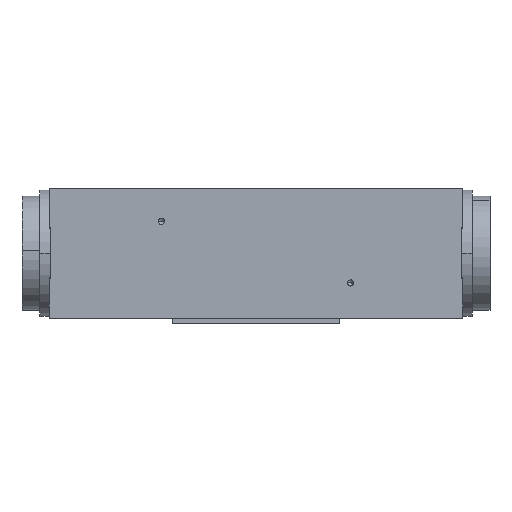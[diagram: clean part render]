
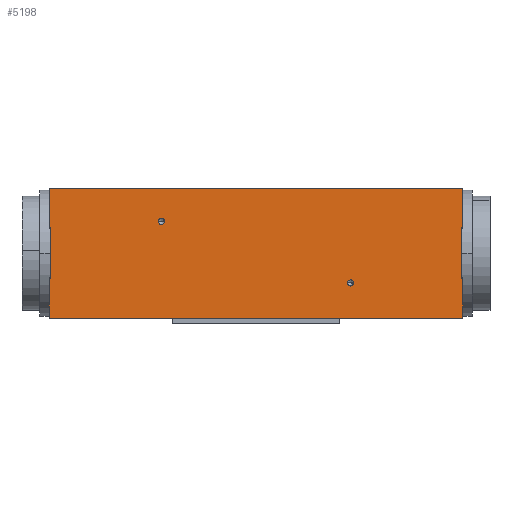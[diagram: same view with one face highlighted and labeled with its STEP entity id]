
A CAD part, top view. The second image highlights one B-rep face of the part: STEP entity #5198.
In plain terms, the highlighted planar face has unit normal (0, 0, 1).
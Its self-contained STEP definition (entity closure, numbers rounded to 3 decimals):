
#86 = DIRECTION ( 'NONE',  ( 0., 0., 1. ) ) ;
#144 = DIRECTION ( 'NONE',  ( 0., 1., 0. ) ) ;
#170 = LINE ( 'NONE', #7552, #1571 ) ;
#200 = EDGE_CURVE ( 'NONE', #666, #3056, #6881, .T. ) ;
#209 = LINE ( 'NONE', #3350, #1617 ) ;
#304 = LINE ( 'NONE', #4427, #4881 ) ;
#454 = ORIENTED_EDGE ( 'NONE', *, *, #6324, .F. ) ;
#499 = CARTESIAN_POINT ( 'NONE',  ( 94.707, -14.75, 15. ) ) ;
#565 = CARTESIAN_POINT ( 'NONE',  ( 0., -14.75, 15. ) ) ;
#570 = ORIENTED_EDGE ( 'NONE', *, *, #4294, .F. ) ;
#589 = EDGE_CURVE ( 'NONE', #5473, #2739, #209, .T. ) ;
#635 = LINE ( 'NONE', #5506, #2029 ) ;
#636 = ORIENTED_EDGE ( 'NONE', *, *, #5381, .T. ) ;
#666 = VERTEX_POINT ( 'NONE', #7518 ) ;
#708 = EDGE_CURVE ( 'NONE', #1433, #7443, #7599, .T. ) ;
#751 = CARTESIAN_POINT ( 'NONE',  ( 68.5, -6.75, 15. ) ) ;
#756 = CARTESIAN_POINT ( 'NONE',  ( 0., -15.457, 15. ) ) ;
#776 = LINE ( 'NONE', #5295, #2603 ) ;
#795 = AXIS2_PLACEMENT_3D ( 'NONE', #2379, #3472, #6581 ) ;
#988 = EDGE_CURVE ( 'NONE', #1433, #5280, #1602, .T. ) ;
#1004 = ORIENTED_EDGE ( 'NONE', *, *, #5278, .F. ) ;
#1057 = CARTESIAN_POINT ( 'NONE',  ( 93.7, 5.568, 15. ) ) ;
#1063 = AXIS2_PLACEMENT_3D ( 'NONE', #2384, #1635, #6685 ) ;
#1086 = VERTEX_POINT ( 'NONE', #1057 ) ;
#1102 = DIRECTION ( 'NONE',  ( -1., 0., 0. ) ) ;
#1274 = FACE_BOUND ( 'NONE', #3613, .T. ) ;
#1293 = CARTESIAN_POINT ( 'NONE',  ( 48.445, 5.568, 15. ) ) ;
#1336 = ORIENTED_EDGE ( 'NONE', *, *, #200, .F. ) ;
#1344 = DIRECTION ( 'NONE',  ( 1., 0., 0. ) ) ;
#1396 = DIRECTION ( 'NONE',  ( 0., 1., 0. ) ) ;
#1433 = VERTEX_POINT ( 'NONE', #5804 ) ;
#1463 = VERTEX_POINT ( 'NONE', #1792 ) ;
#1515 = ORIENTED_EDGE ( 'NONE', *, *, #7403, .T. ) ;
#1519 = PLANE ( 'NONE',  #1063 ) ;
#1571 = VECTOR ( 'NONE', #4369, 1000. ) ;
#1602 = LINE ( 'NONE', #3263, #4791 ) ;
#1617 = VECTOR ( 'NONE', #2792, 1000. ) ;
#1635 = DIRECTION ( 'NONE',  ( 0., 0., -1. ) ) ;
#1650 = VERTEX_POINT ( 'NONE', #3489 ) ;
#1663 = EDGE_CURVE ( 'NONE', #3936, #1650, #7580, .T. ) ;
#1734 = CIRCLE ( 'NONE', #2997, 0.7 ) ;
#1784 = ORIENTED_EDGE ( 'NONE', *, *, #4217, .F. ) ;
#1792 = CARTESIAN_POINT ( 'NONE',  ( 94., 14.75, 15. ) ) ;
#1797 = LINE ( 'NONE', #499, #3735 ) ;
#1801 = DIRECTION ( 'NONE',  ( 1., 0., 0. ) ) ;
#1809 = DIRECTION ( 'NONE',  ( 0., 1., 0. ) ) ;
#1964 = DIRECTION ( 'NONE',  ( -1., 0., 0. ) ) ;
#1973 = VECTOR ( 'NONE', #7103, 1000. ) ;
#2015 = VERTEX_POINT ( 'NONE', #3924 ) ;
#2029 = VECTOR ( 'NONE', #1964, 1000. ) ;
#2100 = CARTESIAN_POINT ( 'NONE',  ( 0.3, 5.568, 15. ) ) ;
#2198 = ORIENTED_EDGE ( 'NONE', *, *, #4834, .F. ) ;
#2269 = DIRECTION ( 'NONE',  ( 0., 1., 0. ) ) ;
#2278 = CIRCLE ( 'NONE', #5758, 0.7 ) ;
#2379 = CARTESIAN_POINT ( 'NONE',  ( 68.5, -6.75, 15. ) ) ;
#2384 = CARTESIAN_POINT ( 'NONE',  ( 94., -14.75, 15. ) ) ;
#2398 = LINE ( 'NONE', #7189, #3793 ) ;
#2603 = VECTOR ( 'NONE', #2269, 1000. ) ;
#2701 = CARTESIAN_POINT ( 'NONE',  ( 0., 14.75, 15. ) ) ;
#2739 = VERTEX_POINT ( 'NONE', #7589 ) ;
#2769 = DIRECTION ( 'NONE',  ( 1., 0., 0. ) ) ;
#2792 = DIRECTION ( 'NONE',  ( -1., 0., 0. ) ) ;
#2845 = FACE_BOUND ( 'NONE', #6631, .T. ) ;
#2931 = ORIENTED_EDGE ( 'NONE', *, *, #6599, .T. ) ;
#2957 = CARTESIAN_POINT ( 'NONE',  ( 26.2, 7.25, 15. ) ) ;
#2997 = AXIS2_PLACEMENT_3D ( 'NONE', #751, #4912, #1344 ) ;
#3056 = VERTEX_POINT ( 'NONE', #6871 ) ;
#3080 = CARTESIAN_POINT ( 'NONE',  ( 25.5, 7.25, 15. ) ) ;
#3177 = DIRECTION ( 'NONE',  ( -1., 0., 0. ) ) ;
#3263 = CARTESIAN_POINT ( 'NONE',  ( 0., -15.457, 15. ) ) ;
#3350 = CARTESIAN_POINT ( 'NONE',  ( 45.555, -5.568, 15. ) ) ;
#3362 = LINE ( 'NONE', #756, #6755 ) ;
#3414 = CARTESIAN_POINT ( 'NONE',  ( 94., -14.75, 15. ) ) ;
#3472 = DIRECTION ( 'NONE',  ( 0., 0., 1. ) ) ;
#3489 = CARTESIAN_POINT ( 'NONE',  ( 93.7, -5.568, 15. ) ) ;
#3613 = EDGE_LOOP ( 'NONE', ( #1336, #454 ) ) ;
#3617 = VERTEX_POINT ( 'NONE', #2957 ) ;
#3684 = EDGE_CURVE ( 'NONE', #4739, #1463, #776, .T. ) ;
#3735 = VECTOR ( 'NONE', #1102, 1000. ) ;
#3740 = CIRCLE ( 'NONE', #7026, 0.7 ) ;
#3793 = VECTOR ( 'NONE', #5494, 1000. ) ;
#3924 = CARTESIAN_POINT ( 'NONE',  ( 24.8, 7.25, 15. ) ) ;
#3936 = VERTEX_POINT ( 'NONE', #4430 ) ;
#4042 = ORIENTED_EDGE ( 'NONE', *, *, #708, .T. ) ;
#4049 = VECTOR ( 'NONE', #3177, 1000. ) ;
#4217 = EDGE_CURVE ( 'NONE', #6026, #2739, #3362, .T. ) ;
#4294 = EDGE_CURVE ( 'NONE', #3617, #2015, #3740, .T. ) ;
#4366 = ORIENTED_EDGE ( 'NONE', *, *, #1663, .T. ) ;
#4369 = DIRECTION ( 'NONE',  ( 0., -1., 0. ) ) ;
#4413 = VECTOR ( 'NONE', #2769, 1000. ) ;
#4427 = CARTESIAN_POINT ( 'NONE',  ( 94., -15.457, 15. ) ) ;
#4430 = CARTESIAN_POINT ( 'NONE',  ( 94., -5.568, 15. ) ) ;
#4665 = ORIENTED_EDGE ( 'NONE', *, *, #3684, .T. ) ;
#4739 = VERTEX_POINT ( 'NONE', #5326 ) ;
#4791 = VECTOR ( 'NONE', #1809, 1000. ) ;
#4834 = EDGE_CURVE ( 'NONE', #1086, #1650, #170, .T. ) ;
#4881 = VECTOR ( 'NONE', #1396, 1000. ) ;
#4912 = DIRECTION ( 'NONE',  ( 0., 0., 1. ) ) ;
#4941 = LINE ( 'NONE', #1293, #1973 ) ;
#5142 = ORIENTED_EDGE ( 'NONE', *, *, #7432, .F. ) ;
#5198 = ADVANCED_FACE ( 'NONE', ( #6053, #2845, #1274 ), #1519, .F. ) ;
#5278 = EDGE_CURVE ( 'NONE', #5473, #7443, #2398, .T. ) ;
#5280 = VERTEX_POINT ( 'NONE', #2701 ) ;
#5295 = CARTESIAN_POINT ( 'NONE',  ( 94., -15.457, 15. ) ) ;
#5326 = CARTESIAN_POINT ( 'NONE',  ( 94., 5.568, 15. ) ) ;
#5381 = EDGE_CURVE ( 'NONE', #1463, #5280, #635, .T. ) ;
#5442 = CARTESIAN_POINT ( 'NONE',  ( 25.5, 7.25, 15. ) ) ;
#5473 = VERTEX_POINT ( 'NONE', #7288 ) ;
#5494 = DIRECTION ( 'NONE',  ( 0., 1., 0. ) ) ;
#5506 = CARTESIAN_POINT ( 'NONE',  ( 94.707, 14.75, 15. ) ) ;
#5676 = ORIENTED_EDGE ( 'NONE', *, *, #589, .T. ) ;
#5726 = CARTESIAN_POINT ( 'NONE',  ( 45.555, 5.568, 15. ) ) ;
#5758 = AXIS2_PLACEMENT_3D ( 'NONE', #5442, #86, #1801 ) ;
#5804 = CARTESIAN_POINT ( 'NONE',  ( 0., 5.568, 15. ) ) ;
#6026 = VERTEX_POINT ( 'NONE', #565 ) ;
#6053 = FACE_OUTER_BOUND ( 'NONE', #6824, .T. ) ;
#6081 = DIRECTION ( 'NONE',  ( 1., 0., 0. ) ) ;
#6324 = EDGE_CURVE ( 'NONE', #3056, #666, #1734, .T. ) ;
#6442 = ORIENTED_EDGE ( 'NONE', *, *, #988, .F. ) ;
#6581 = DIRECTION ( 'NONE',  ( 1., 0., 0. ) ) ;
#6599 = EDGE_CURVE ( 'NONE', #7211, #3936, #304, .T. ) ;
#6610 = ORIENTED_EDGE ( 'NONE', *, *, #6927, .F. ) ;
#6631 = EDGE_LOOP ( 'NONE', ( #570, #6610 ) ) ;
#6685 = DIRECTION ( 'NONE',  ( -1., 0., 0. ) ) ;
#6692 = DIRECTION ( 'NONE',  ( 0., 0., 1. ) ) ;
#6755 = VECTOR ( 'NONE', #144, 1000. ) ;
#6824 = EDGE_LOOP ( 'NONE', ( #2198, #1515, #4665, #636, #6442, #4042, #1004, #5676, #1784, #5142, #2931, #4366 ) ) ;
#6871 = CARTESIAN_POINT ( 'NONE',  ( 67.8, -6.75, 15. ) ) ;
#6881 = CIRCLE ( 'NONE', #795, 0.7 ) ;
#6927 = EDGE_CURVE ( 'NONE', #2015, #3617, #2278, .T. ) ;
#7026 = AXIS2_PLACEMENT_3D ( 'NONE', #3080, #6692, #6081 ) ;
#7103 = DIRECTION ( 'NONE',  ( 1., 0., 0. ) ) ;
#7142 = CARTESIAN_POINT ( 'NONE',  ( 48.445, -5.568, 15. ) ) ;
#7189 = CARTESIAN_POINT ( 'NONE',  ( 0.3, -14.75, 15. ) ) ;
#7211 = VERTEX_POINT ( 'NONE', #3414 ) ;
#7288 = CARTESIAN_POINT ( 'NONE',  ( 0.3, -5.568, 15. ) ) ;
#7403 = EDGE_CURVE ( 'NONE', #1086, #4739, #4941, .T. ) ;
#7432 = EDGE_CURVE ( 'NONE', #7211, #6026, #1797, .T. ) ;
#7443 = VERTEX_POINT ( 'NONE', #2100 ) ;
#7518 = CARTESIAN_POINT ( 'NONE',  ( 69.2, -6.75, 15. ) ) ;
#7552 = CARTESIAN_POINT ( 'NONE',  ( 93.7, -14.75, 15. ) ) ;
#7580 = LINE ( 'NONE', #7142, #4049 ) ;
#7589 = CARTESIAN_POINT ( 'NONE',  ( 0., -5.568, 15. ) ) ;
#7599 = LINE ( 'NONE', #5726, #4413 ) ;
